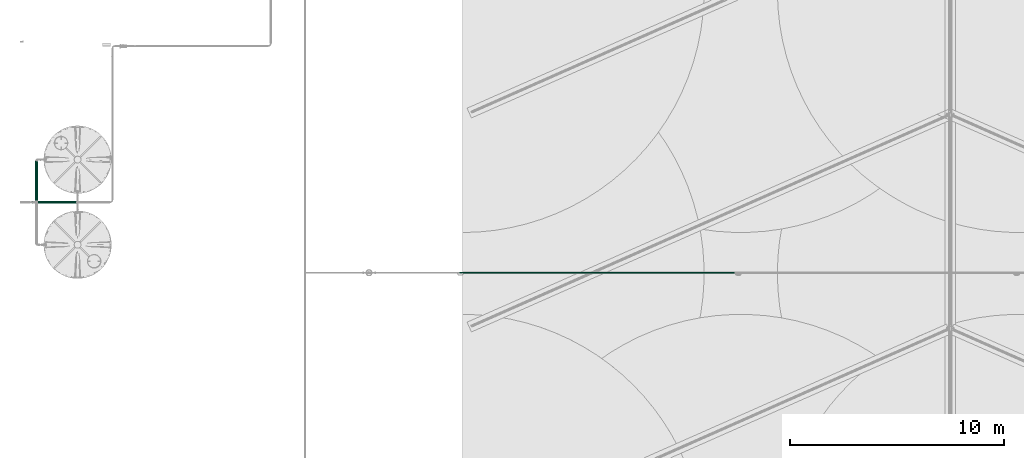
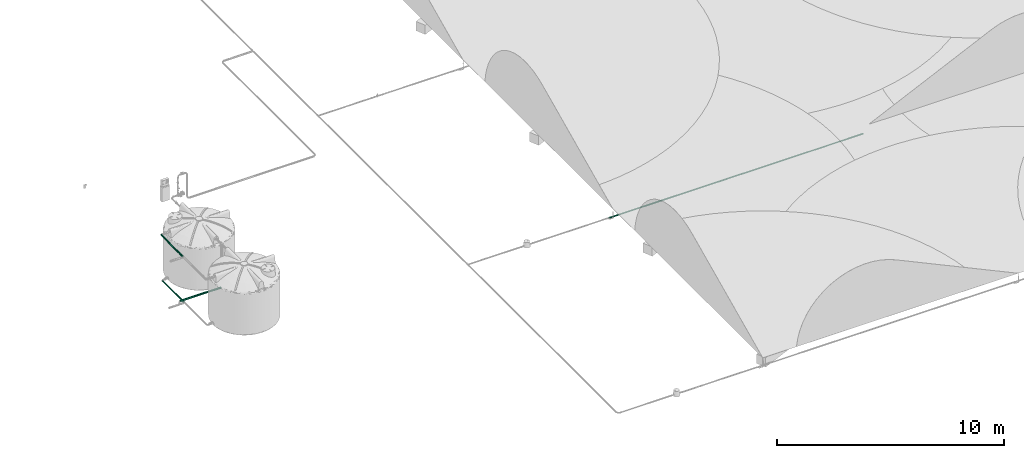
# One storey, part 5 of 166: 4 flow segments.
"""IFC2X3 building model written with IfcOpenShell, lengths in metres."""

from ifc_helpers import new_model, entity, si_unit, converted_unit, direction, frame, frame_2d, origin, origin_2d_with_axis, place, context, subcontext, project, spatial, circle, extrude, type_object, element, save


model = new_model("IFC2X3")

# Units and contexts
model_context = context("Model", 3, precision=1e-05, world=origin(), true_north=direction((6.123233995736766e-17, 1.0)))
body_context = subcontext(model_context, "Body", "Model", "MODEL_VIEW")
ifc_project = project(units=[si_unit("LENGTHUNIT", "METRE"), converted_unit("PLANEANGLEUNIT", "DEGREE", entity("IfcPlaneAngleMeasure", 0.017453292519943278), si_unit("PLANEANGLEUNIT", "RADIAN"), dimensions=[0, 0, 0, 0, 0, 0, 0]), si_unit("AREAUNIT", "SQUARE_METRE")], contexts=[model_context])

# Site, building, storey
site_placement = place(None, origin())
site = spatial("IfcSite", under=ifc_project, at=site_placement, Name="Default", CompositionType="ELEMENT")
building_placement = place(site_placement, origin())
building = spatial("IfcBuilding", under=site, at=building_placement, Name="CASA DE ACOLHIDA PARA IDOSOS", CompositionType="ELEMENT")
storey_placement = place(building_placement, frame((0.0, 0.0, -1.7499999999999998)))
storey = spatial("IfcBuildingStorey", under=building, at=storey_placement, Name="IMPLANTAÇÃO DRENAGEM", CompositionType="ELEMENT", Elevation=-1.7499999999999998)

# Flow segments
pipe_segment_type_1 = type_object("IfcPipeSegmentType", Name="Tipos de tubos:AF_Tubo Marrom Soldável", PredefinedType="NOTDEFINED")
flow_segment_1_placement = place(storey_placement, origin())
element("IfcFlowSegment", 1, at=flow_segment_1_placement, inside=storey, type_object=pipe_segment_type_1, Name="Tipos de tubos:AF_Tubo Marrom Soldável", ObjectType="Tipos de tubos:AF_Tubo Marrom Soldável", context=body_context, shape_type="SweptSolid", body=[
    extrude(circle(Radius=0.025, at=frame_2d((0.0, -2.707167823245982e-16), x_axis=(1.0, 0.0))), frame((-44.95834889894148, -3.5450579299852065, -0.19999999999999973), z_axis=(1.0, 0.0, 0.0), x_axis=(0.0, -1.0, 0.0)), (0.0, 0.0, 1.0), 12.934799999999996),
])
pipe_segment_type_2 = type_object("IfcPipeSegmentType", Name="Tipos de tubos:AF_Tubo Branco Roscável", PredefinedType="NOTDEFINED")
flow_segment_2_placement = place(storey_placement, origin())
element("IfcFlowSegment", 2, at=flow_segment_2_placement, inside=storey, type_object=pipe_segment_type_2, Name="Tipos de tubos:AF_Tubo Branco Roscável", ObjectType="Tipos de tubos:AF_Tubo Branco Roscável", context=body_context, shape_type="SweptSolid", body=[
    extrude(circle(Radius=0.037500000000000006, at=origin_2d_with_axis()), frame((-64.64728057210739, -0.19607816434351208, 0.13343317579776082), z_axis=(0.0, 1.0, 0.0), x_axis=(-1.0, 0.0, 0.0)), (0.0, 0.0, 1.0), 1.8989999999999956),
])
flow_segment_3_placement = place(storey_placement, origin())
element("IfcFlowSegment", 3, at=flow_segment_3_placement, inside=storey, type_object=pipe_segment_type_2, Name="Tipos de tubos:AF_Tubo Branco Roscável", ObjectType="Tipos de tubos:AF_Tubo Branco Roscável", context=body_context, shape_type="SweptSolid", body=[
    extrude(circle(Radius=0.037500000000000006, at=frame_2d((1.0151879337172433e-16, 0.0), x_axis=(1.0, 0.0))), frame((-64.86958057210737, -0.25137816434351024, 0.29999999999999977), z_axis=(1.0, 0.0, 0.0), x_axis=(0.0, -1.0, 0.0)), (0.0, 0.0, 1.0), 2.0729705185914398),
])
flow_segment_4_placement = place(storey_placement, origin())
element("IfcFlowSegment", 4, at=flow_segment_4_placement, inside=storey, type_object=pipe_segment_type_2, Name="Tipos de tubos:AF_Tubo Branco Roscável", ObjectType="Tipos de tubos:AF_Tubo Branco Roscável", context=body_context, shape_type="SweptSolid", body=[
    extrude(circle(Radius=0.03, at=origin_2d_with_axis()), frame((-64.70728057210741, -0.20983816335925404, 2.615000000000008), z_axis=(0.0, 1.0, 0.0), x_axis=(-1.0, 0.0, 0.0)), (0.0, 0.0, 1.0), 1.9158599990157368),
])

save(model, "model.ifc")
